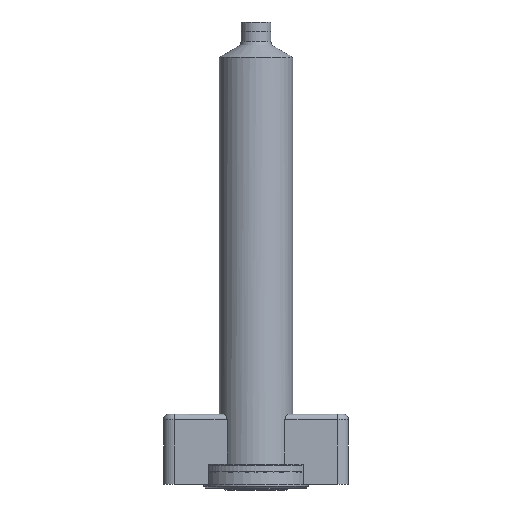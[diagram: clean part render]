
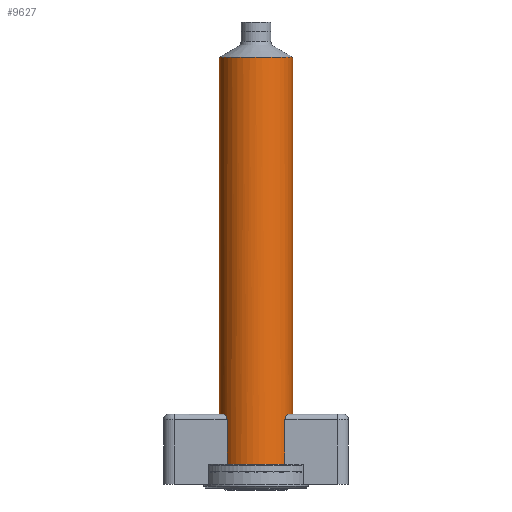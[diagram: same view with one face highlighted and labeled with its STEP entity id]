
A CAD part, front view. The second image highlights one B-rep face of the part: STEP entity #9627.
In plain terms, the highlighted cylindrical face has radius 40 mm (diameter 80 mm), a partial arc.
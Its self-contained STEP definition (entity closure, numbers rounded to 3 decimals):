
#854 = VERTEX_POINT ( 'NONE', #16584 ) ;
#1061 = VERTEX_POINT ( 'NONE', #16390 ) ;
#1350 = VERTEX_POINT ( 'NONE', #17635 ) ;
#1382 = VERTEX_POINT ( 'NONE', #17619 ) ;
#1401 = VERTEX_POINT ( 'NONE', #17612 ) ;
#1463 = VERTEX_POINT ( 'NONE', #17585 ) ;
#1486 = VERTEX_POINT ( 'NONE', #17574 ) ;
#1902 = VERTEX_POINT ( 'NONE', #17449 ) ;
#2013 = VERTEX_POINT ( 'NONE', #17298 ) ;
#2042 = VERTEX_POINT ( 'NONE', #17222 ) ;
#2347 = AXIS2_PLACEMENT_3D ( 'NONE', #10145, #10144, #10143 ) ;
#2719 = AXIS2_PLACEMENT_3D ( 'NONE', #7344, #7343, #7342 ) ;
#2784 = AXIS2_PLACEMENT_3D ( 'NONE', #6325, #6316, #6311 ) ;
#3212 = CYLINDRICAL_SURFACE ( 'NONE', #2347, 40. ) ;
#3273 = FACE_OUTER_BOUND ( 'NONE', #10959, .T. ) ;
#4277 = B_SPLINE_CURVE_WITH_KNOTS ( 'NONE', 3,
 ( #14626, #14622, #14621, #14619, #14617, #14616, #14614, #14612, #14610, #14609, #14606, #14604, #14601, #14600, #14595, #14580, #14577, #14572 ),
 .UNSPECIFIED., .F., .F.,
 ( 4, 2, 2, 2, 2, 2, 2, 2, 4 ),
 ( 0., 0.003, 0.004, 0.005, 0.006, 0.008, 0.009, 0.01, 0.01 ),
 .UNSPECIFIED. ) ;
#4280 = B_SPLINE_CURVE_WITH_KNOTS ( 'NONE', 3,
 ( #14361, #14358, #14356, #14355, #14353, #14351, #14349, #14347, #14345, #14343, #14342, #14340, #14338, #14337, #14335, #14333, #14330, #14328, #14326, #14324 ),
 .UNSPECIFIED., .F., .F.,
 ( 4, 2, 2, 2, 2, 2, 2, 2, 2, 4 ),
 ( 0., 0.001, 0.002, 0.003, 0.003, 0.004, 0.005, 0.006, 0.008, 0.01 ),
 .UNSPECIFIED. ) ;
#5014 = AXIS2_PLACEMENT_3D ( 'NONE', #14462, #14460, #14458 ) ;
#5018 = AXIS2_PLACEMENT_3D ( 'NONE', #14640, #14638, #14636 ) ;
#5362 = CIRCLE ( 'NONE', #2784, 40. ) ;
#5488 = LINE ( 'NONE', #6888, #5489 ) ;
#5489 = VECTOR ( 'NONE', #6886, 1000. ) ;
#5636 = CIRCLE ( 'NONE', #2719, 40. ) ;
#5641 = VECTOR ( 'NONE', #7346, 1000. ) ;
#5642 = LINE ( 'NONE', #7347, #5641 ) ;
#6311 = DIRECTION ( 'NONE',  ( -1., 0., 0. ) ) ;
#6316 = DIRECTION ( 'NONE',  ( 0., 0., -1. ) ) ;
#6325 = CARTESIAN_POINT ( 'NONE',  ( 0., 0., 82. ) ) ;
#6886 = DIRECTION ( 'NONE',  ( 0., 0., -1. ) ) ;
#6888 = CARTESIAN_POINT ( 'NONE',  ( 40., 0., 461.325 ) ) ;
#7342 = DIRECTION ( 'NONE',  ( -1., 0., 0. ) ) ;
#7343 = DIRECTION ( 'NONE',  ( 0., 0., -1. ) ) ;
#7344 = CARTESIAN_POINT ( 'NONE',  ( 0., 0., 467.762 ) ) ;
#7346 = DIRECTION ( 'NONE',  ( 0., 0., -1. ) ) ;
#7347 = CARTESIAN_POINT ( 'NONE',  ( -40., 0., 461.325 ) ) ;
#9627 = ADVANCED_FACE ( 'NONE', ( #3273 ), #3212, .T. ) ;
#10143 = DIRECTION ( 'NONE',  ( -1., 0., 0. ) ) ;
#10144 = DIRECTION ( 'NONE',  ( 0., 0., -1. ) ) ;
#10145 = CARTESIAN_POINT ( 'NONE',  ( 0., 0., 461.325 ) ) ;
#10588 = ORIENTED_EDGE ( 'NONE', *, *, #11952, .F. ) ;
#10950 = ORIENTED_EDGE ( 'NONE', *, *, #11632, .F. ) ;
#10953 = ORIENTED_EDGE ( 'NONE', *, *, #11550, .T. ) ;
#10954 = ORIENTED_EDGE ( 'NONE', *, *, #11549, .T. ) ;
#10957 = ORIENTED_EDGE ( 'NONE', *, *, #11943, .F. ) ;
#10959 = EDGE_LOOP ( 'NONE', ( #10950, #10953, #10954, #10957, #10962, #10964, #10588, #10969, #10965, #10967 ) ) ;
#10962 = ORIENTED_EDGE ( 'NONE', *, *, #11944, .T. ) ;
#10964 = ORIENTED_EDGE ( 'NONE', *, *, #11951, .T. ) ;
#10965 = ORIENTED_EDGE ( 'NONE', *, *, #11969, .T. ) ;
#10967 = ORIENTED_EDGE ( 'NONE', *, *, #11503, .F. ) ;
#10969 = ORIENTED_EDGE ( 'NONE', *, *, #11970, .T. ) ;
#11503 = EDGE_CURVE ( 'NONE', #1382, #1350, #5362, .T. ) ;
#11549 = EDGE_CURVE ( 'NONE', #1902, #1401, #5642, .T. ) ;
#11550 = EDGE_CURVE ( 'NONE', #1463, #1902, #5636, .T. ) ;
#11632 = EDGE_CURVE ( 'NONE', #1463, #1382, #5488, .T. ) ;
#11943 = EDGE_CURVE ( 'NONE', #2042, #1401, #16086, .T. ) ;
#11944 = EDGE_CURVE ( 'NONE', #2042, #854, #4277, .T. ) ;
#11951 = EDGE_CURVE ( 'NONE', #854, #1486, #16057, .T. ) ;
#11952 = EDGE_CURVE ( 'NONE', #2013, #1486, #16128, .T. ) ;
#11969 = EDGE_CURVE ( 'NONE', #1061, #1350, #4280, .T. ) ;
#11970 = EDGE_CURVE ( 'NONE', #2013, #1061, #16201, .T. ) ;
#14318 = DIRECTION ( 'NONE',  ( 0., 0., 1. ) ) ;
#14319 = CARTESIAN_POINT ( 'NONE',  ( 31.225, -25., 24.409 ) ) ;
#14324 = CARTESIAN_POINT ( 'NONE',  ( 35.199, -19., 82. ) ) ;
#14326 = CARTESIAN_POINT ( 'NONE',  ( 34.787, -19.765, 82. ) ) ;
#14328 = CARTESIAN_POINT ( 'NONE',  ( 34.361, -20.494, 81.859 ) ) ;
#14330 = CARTESIAN_POINT ( 'NONE',  ( 33.708, -21.539, 81.449 ) ) ;
#14333 = CARTESIAN_POINT ( 'NONE',  ( 33.492, -21.874, 81.28 ) ) ;
#14335 = CARTESIAN_POINT ( 'NONE',  ( 33.069, -22.508, 80.882 ) ) ;
#14337 = CARTESIAN_POINT ( 'NONE',  ( 32.861, -22.809, 80.652 ) ) ;
#14338 = CARTESIAN_POINT ( 'NONE',  ( 32.463, -23.373, 80.127 ) ) ;
#14340 = CARTESIAN_POINT ( 'NONE',  ( 32.275, -23.63, 79.837 ) ) ;
#14342 = CARTESIAN_POINT ( 'NONE',  ( 32.017, -23.978, 79.355 ) ) ;
#14343 = CARTESIAN_POINT ( 'NONE',  ( 31.934, -24.088, 79.186 ) ) ;
#14345 = CARTESIAN_POINT ( 'NONE',  ( 31.78, -24.291, 78.836 ) ) ;
#14347 = CARTESIAN_POINT ( 'NONE',  ( 31.708, -24.384, 78.656 ) ) ;
#14349 = CARTESIAN_POINT ( 'NONE',  ( 31.578, -24.553, 78.282 ) ) ;
#14351 = CARTESIAN_POINT ( 'NONE',  ( 31.519, -24.629, 78.089 ) ) ;
#14353 = CARTESIAN_POINT ( 'NONE',  ( 31.415, -24.761, 77.69 ) ) ;
#14355 = CARTESIAN_POINT ( 'NONE',  ( 31.37, -24.818, 77.483 ) ) ;
#14356 = CARTESIAN_POINT ( 'NONE',  ( 31.263, -24.953, 76.861 ) ) ;
#14358 = CARTESIAN_POINT ( 'NONE',  ( 31.225, -25., 76.436 ) ) ;
#14361 = CARTESIAN_POINT ( 'NONE',  ( 31.225, -25., 76. ) ) ;
#14458 = DIRECTION ( 'NONE',  ( -1., 0., 0. ) ) ;
#14460 = DIRECTION ( 'NONE',  ( 0., 0., -1. ) ) ;
#14462 = CARTESIAN_POINT ( 'NONE',  ( 0., 0., 28. ) ) ;
#14465 = DIRECTION ( 'NONE',  ( 0., 0., -1. ) ) ;
#14467 = CARTESIAN_POINT ( 'NONE',  ( -31.225, -25., 24.409 ) ) ;
#14572 = CARTESIAN_POINT ( 'NONE',  ( -31.225, -25., 76. ) ) ;
#14577 = CARTESIAN_POINT ( 'NONE',  ( -31.225, -25., 76.218 ) ) ;
#14580 = CARTESIAN_POINT ( 'NONE',  ( -31.235, -24.988, 76.435 ) ) ;
#14595 = CARTESIAN_POINT ( 'NONE',  ( -31.272, -24.941, 76.867 ) ) ;
#14600 = CARTESIAN_POINT ( 'NONE',  ( -31.3, -24.906, 77.081 ) ) ;
#14601 = CARTESIAN_POINT ( 'NONE',  ( -31.409, -24.769, 77.704 ) ) ;
#14604 = CARTESIAN_POINT ( 'NONE',  ( -31.514, -24.635, 78.102 ) ) ;
#14606 = CARTESIAN_POINT ( 'NONE',  ( -31.78, -24.292, 78.858 ) ) ;
#14609 = CARTESIAN_POINT ( 'NONE',  ( -31.935, -24.089, 79.204 ) ) ;
#14610 = CARTESIAN_POINT ( 'NONE',  ( -32.279, -23.625, 79.842 ) ) ;
#14612 = CARTESIAN_POINT ( 'NONE',  ( -32.47, -23.362, 80.137 ) ) ;
#14614 = CARTESIAN_POINT ( 'NONE',  ( -32.866, -22.802, 80.657 ) ) ;
#14616 = CARTESIAN_POINT ( 'NONE',  ( -33.072, -22.504, 80.885 ) ) ;
#14617 = CARTESIAN_POINT ( 'NONE',  ( -33.494, -21.87, 81.282 ) ) ;
#14619 = CARTESIAN_POINT ( 'NONE',  ( -33.713, -21.532, 81.452 ) ) ;
#14621 = CARTESIAN_POINT ( 'NONE',  ( -34.362, -20.492, 81.859 ) ) ;
#14622 = CARTESIAN_POINT ( 'NONE',  ( -34.786, -19.766, 82. ) ) ;
#14626 = CARTESIAN_POINT ( 'NONE',  ( -35.199, -19., 82. ) ) ;
#14636 = DIRECTION ( 'NONE',  ( -1., 0., 0. ) ) ;
#14638 = DIRECTION ( 'NONE',  ( 0., 0., -1. ) ) ;
#14640 = CARTESIAN_POINT ( 'NONE',  ( 0., 0., 82. ) ) ;
#16049 = VECTOR ( 'NONE', #14318, 1000. ) ;
#16057 = LINE ( 'NONE', #14467, #16061 ) ;
#16061 = VECTOR ( 'NONE', #14465, 1000. ) ;
#16086 = CIRCLE ( 'NONE', #5018, 40. ) ;
#16128 = CIRCLE ( 'NONE', #5014, 40. ) ;
#16201 = LINE ( 'NONE', #14319, #16049 ) ;
#16390 = CARTESIAN_POINT ( 'NONE',  ( 31.225, -25., 76. ) ) ;
#16584 = CARTESIAN_POINT ( 'NONE',  ( -31.225, -25., 76. ) ) ;
#17222 = CARTESIAN_POINT ( 'NONE',  ( -35.199, -19., 82. ) ) ;
#17298 = CARTESIAN_POINT ( 'NONE',  ( 31.225, -25., 28. ) ) ;
#17449 = CARTESIAN_POINT ( 'NONE',  ( -40., 0., 467.762 ) ) ;
#17574 = CARTESIAN_POINT ( 'NONE',  ( -31.225, -25., 28. ) ) ;
#17585 = CARTESIAN_POINT ( 'NONE',  ( 40., 0., 467.762 ) ) ;
#17612 = CARTESIAN_POINT ( 'NONE',  ( -40., 0., 82. ) ) ;
#17619 = CARTESIAN_POINT ( 'NONE',  ( 40., 0., 82. ) ) ;
#17635 = CARTESIAN_POINT ( 'NONE',  ( 35.199, -19., 82. ) ) ;
